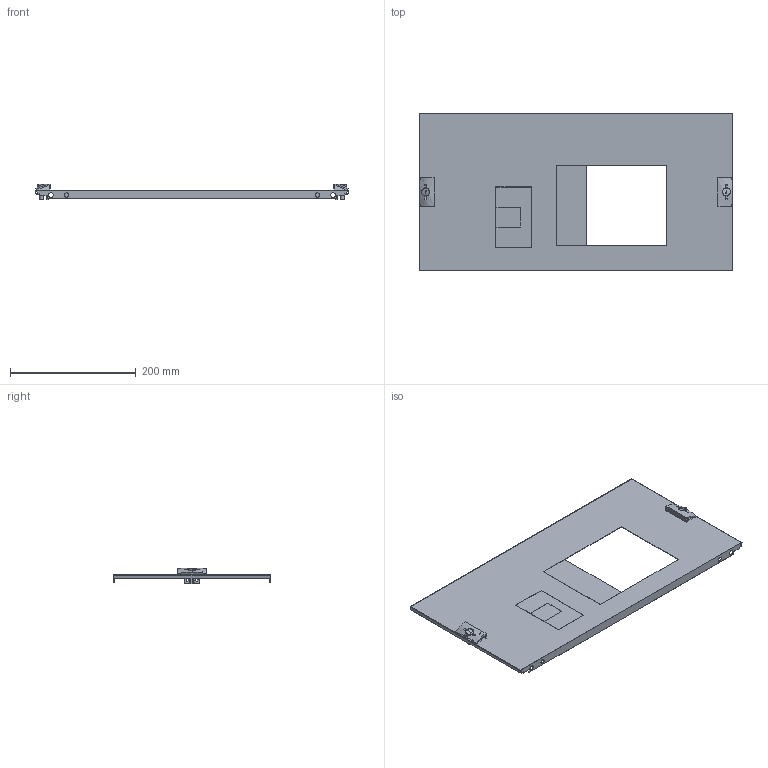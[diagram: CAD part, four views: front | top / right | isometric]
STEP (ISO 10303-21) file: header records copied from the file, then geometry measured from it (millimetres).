
FILE_DESCRIPTION((''),'2;1');
FILE_NAME('SB106129_3D_COLOUR','2013-07-26T',('SESA214371'),('Schneider-Electric'),'PRO/ENGINEER BY PARAMETRIC TECHNOLOGY CORPORATION, 2011410','PRO/ENGINEER BY PARAMETRIC TECHNOLOGY CORPORATION, 2011410','');
FILE_SCHEMA(('CONFIG_CONTROL_DESIGN'));
Length unit declared in the file: millimetre
Products named in the file (1): SB106129_3D_COLOUR
Bounding box: 498.7 x 249 x 25.46 mm (x, y, z)
Volume: 114188.1 mm3; surface area: 272339.2 mm2
Topology: 1 solids, 1 shells, 372 faces, 1072 edges, 710 vertices
Faces by surface type: plane 308, cylinder 50, bspline 10, cone 4
Entity records: 12674 total; most frequent: CARTESIAN_POINT 2888, ORIENTED_EDGE 2144, DIRECTION 1836, EDGE_CURVE 1072, VECTOR 832, LINE 832, VERTEX_POINT 710, AXIS2_PLACEMENT_3D 502
